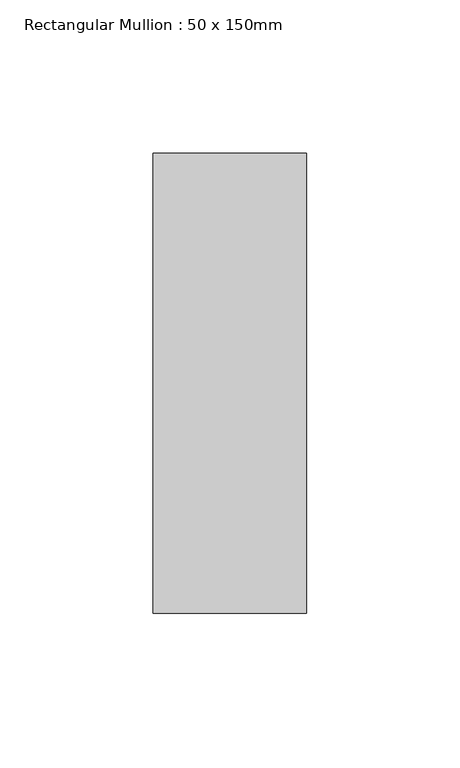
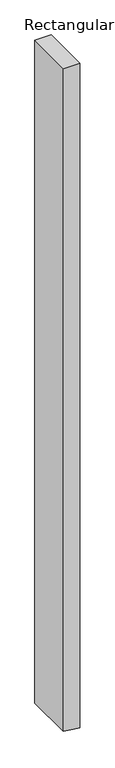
"""IFC4 building model written with IfcOpenShell, lengths in millimetres: member geometry, Rectangular Mullion : 50 x 150mm."""

from ifc_helpers import new_model, si_unit, frame, origin, place, context, project, spatial, polyline, outline, extrude, source, transform, mapped, element, save


def rectangular_mullion_50_x_150mm_d5ca55b1(model_context):
    return source(origin(), model_context, "Body", "SweptSolid", [
        extrude(outline(polyline([(0.0, 25.0), (0.0, -25.0), (-2129.6795293, -25.0), (-2133.1596886, 5.6423937), (-2135.3581967, 25.0), (0.0, 25.0)])), frame((0.0, -75.0, 0.0), z_axis=(0.0, 1.0, 0.0), x_axis=(0.0, 0.0, 1.0)), (0.0, 0.0, 1.0), 150.0),
    ])


if __name__ == "__main__":
    model = new_model("IFC4")
    model_context = context("Model", 3, world=origin())
    ifc_project = project(units=[si_unit("LENGTHUNIT", "METRE", prefix="MILLI")], contexts=[model_context])
    site = spatial("IfcSite", under=ifc_project)
    building = spatial("IfcBuilding", under=site)
    placement = place(None, origin())
    rectangular_mullion_50_x_150mm_shape = rectangular_mullion_50_x_150mm_d5ca55b1(model_context)
    element("IfcMember", 1, ObjectType="Rectangular Mullion : 50 x 150mm", at=placement, inside=building, context=model_context, shape_type="MappedRepresentation", body=[
        mapped(rectangular_mullion_50_x_150mm_shape, transform((0.0, 0.0, 0.0), x_axis=(1.0, 0.0, 0.0), y_axis=(0.0, 1.0, 0.0), z_axis=(0.0, 0.0, 1.0))),
    ])
    save(model, "model.ifc")
